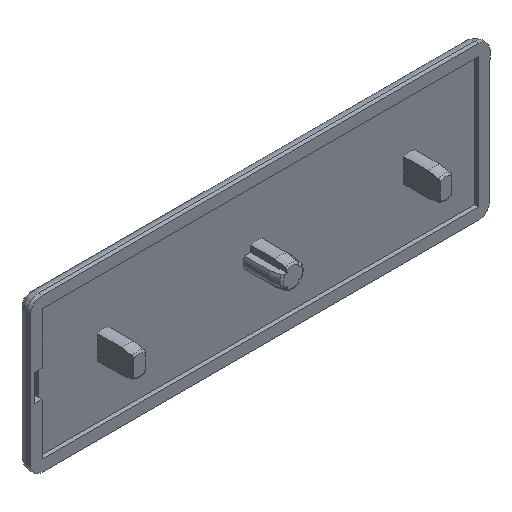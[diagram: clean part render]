
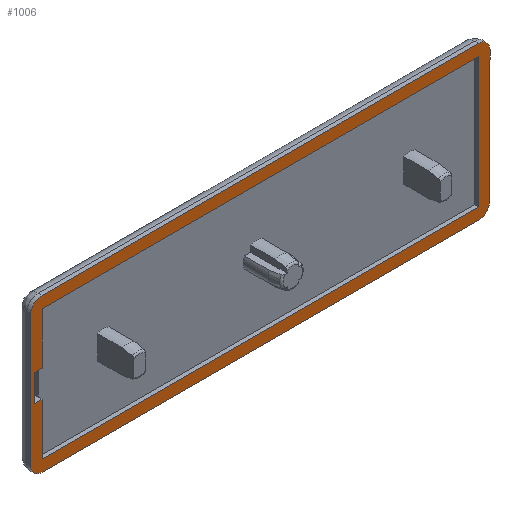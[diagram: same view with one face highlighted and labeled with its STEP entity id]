
A CAD part, isometric view. The second image highlights one B-rep face of the part: STEP entity #1006.
In plain terms, the highlighted planar face has unit normal (0, -1, 0).
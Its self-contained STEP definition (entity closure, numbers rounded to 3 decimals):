
#17 = CARTESIAN_POINT ( 'NONE',  ( 60., -4., 3.5 ) ) ;
#23 = DIRECTION ( 'NONE',  ( -1., 0., 0. ) ) ;
#37 = VERTEX_POINT ( 'NONE', #1158 ) ;
#49 = VECTOR ( 'NONE', #629, 1000. ) ;
#51 = CARTESIAN_POINT ( 'NONE',  ( -59., -4., -20. ) ) ;
#70 = DIRECTION ( 'NONE',  ( 0., 0., -1. ) ) ;
#97 = AXIS2_PLACEMENT_3D ( 'NONE', #972, #940, #951 ) ;
#116 = CARTESIAN_POINT ( 'NONE',  ( -57., -4., 20. ) ) ;
#133 = CARTESIAN_POINT ( 'NONE',  ( -57., -4., -17. ) ) ;
#145 = AXIS2_PLACEMENT_3D ( 'NONE', #133, #346, #319 ) ;
#193 = CARTESIAN_POINT ( 'NONE',  ( -57., -4., -3.5 ) ) ;
#210 = VERTEX_POINT ( 'NONE', #459 ) ;
#276 = ORIENTED_EDGE ( 'NONE', *, *, #1176, .F. ) ;
#303 = EDGE_CURVE ( 'NONE', #1269, #1606, #2118, .T. ) ;
#319 = DIRECTION ( 'NONE',  ( -1., 0., 0. ) ) ;
#346 = DIRECTION ( 'NONE',  ( 0., -1., 0. ) ) ;
#378 = CARTESIAN_POINT ( 'NONE',  ( -60., -4., -17. ) ) ;
#383 = DIRECTION ( 'NONE',  ( 1., 0., 0. ) ) ;
#389 = CARTESIAN_POINT ( 'NONE',  ( -57., -4., -20. ) ) ;
#415 = AXIS2_PLACEMENT_3D ( 'NONE', #1558, #1550, #1534 ) ;
#428 = AXIS2_PLACEMENT_3D ( 'NONE', #2072, #2395, #2059 ) ;
#435 = VECTOR ( 'NONE', #1990, 1000. ) ;
#459 = CARTESIAN_POINT ( 'NONE',  ( 60., -4., -17. ) ) ;
#476 = VERTEX_POINT ( 'NONE', #2409 ) ;
#508 = CARTESIAN_POINT ( 'NONE',  ( -57., -4., 3.5 ) ) ;
#513 = VERTEX_POINT ( 'NONE', #2420 ) ;
#537 = VECTOR ( 'NONE', #2403, 1000. ) ;
#577 = ORIENTED_EDGE ( 'NONE', *, *, #1731, .T. ) ;
#578 = DIRECTION ( 'NONE',  ( -1., 0., 0. ) ) ;
#581 = CIRCLE ( 'NONE', #97, 3. ) ;
#599 = ORIENTED_EDGE ( 'NONE', *, *, #1396, .T. ) ;
#607 = ORIENTED_EDGE ( 'NONE', *, *, #1773, .T. ) ;
#617 = VERTEX_POINT ( 'NONE', #116 ) ;
#629 = DIRECTION ( 'NONE',  ( -1., 0., 0. ) ) ;
#636 = ORIENTED_EDGE ( 'NONE', *, *, #303, .T. ) ;
#652 = CARTESIAN_POINT ( 'NONE',  ( -59., -4., -3.5 ) ) ;
#683 = CARTESIAN_POINT ( 'NONE',  ( -59., -4., 3.5 ) ) ;
#691 = VECTOR ( 'NONE', #70, 1000. ) ;
#712 = ORIENTED_EDGE ( 'NONE', *, *, #1144, .T. ) ;
#801 = CARTESIAN_POINT ( 'NONE',  ( 60., -4., -17. ) ) ;
#820 = VECTOR ( 'NONE', #1016, 1000. ) ;
#850 = ORIENTED_EDGE ( 'NONE', *, *, #2061, .T. ) ;
#862 = LINE ( 'NONE', #801, #49 ) ;
#864 = CARTESIAN_POINT ( 'NONE',  ( 57., -4., 17. ) ) ;
#925 = LINE ( 'NONE', #1924, #1758 ) ;
#936 = LINE ( 'NONE', #995, #820 ) ;
#940 = DIRECTION ( 'NONE',  ( 0., -1., 0. ) ) ;
#951 = DIRECTION ( 'NONE',  ( -1., 0., 0. ) ) ;
#972 = CARTESIAN_POINT ( 'NONE',  ( -57., -4., 17. ) ) ;
#986 = CARTESIAN_POINT ( 'NONE',  ( -60., -4., -20. ) ) ;
#995 = CARTESIAN_POINT ( 'NONE',  ( 57., -4., -20. ) ) ;
#1006 = ADVANCED_FACE ( 'NONE', ( #1337, #1122 ), #2147, .T. ) ;
#1010 = LINE ( 'NONE', #2414, #691 ) ;
#1016 = DIRECTION ( 'NONE',  ( 0., 0., -1. ) ) ;
#1055 = CIRCLE ( 'NONE', #2387, 3. ) ;
#1108 = DIRECTION ( 'NONE',  ( 0., -1., 0. ) ) ;
#1122 = FACE_BOUND ( 'NONE', #1837, .T. ) ;
#1139 = VERTEX_POINT ( 'NONE', #652 ) ;
#1144 = EDGE_CURVE ( 'NONE', #1443, #1139, #1741, .T. ) ;
#1156 = CARTESIAN_POINT ( 'NONE',  ( 57., -4., -20. ) ) ;
#1157 = CARTESIAN_POINT ( 'NONE',  ( -57., -4., -17. ) ) ;
#1158 = CARTESIAN_POINT ( 'NONE',  ( 57., -4., -17. ) ) ;
#1176 = EDGE_CURVE ( 'NONE', #210, #1606, #1370, .T. ) ;
#1215 = LINE ( 'NONE', #2178, #435 ) ;
#1269 = VERTEX_POINT ( 'NONE', #389 ) ;
#1337 = FACE_OUTER_BOUND ( 'NONE', #2033, .T. ) ;
#1343 = VERTEX_POINT ( 'NONE', #1486 ) ;
#1370 = CIRCLE ( 'NONE', #415, 3. ) ;
#1371 = CARTESIAN_POINT ( 'NONE',  ( -60., -4., 20. ) ) ;
#1382 = CIRCLE ( 'NONE', #145, 3. ) ;
#1391 = ORIENTED_EDGE ( 'NONE', *, *, #1742, .T. ) ;
#1396 = EDGE_CURVE ( 'NONE', #1803, #37, #936, .T. ) ;
#1404 = ORIENTED_EDGE ( 'NONE', *, *, #1795, .T. ) ;
#1440 = EDGE_CURVE ( 'NONE', #2292, #617, #2274, .T. ) ;
#1443 = VERTEX_POINT ( 'NONE', #193 ) ;
#1449 = EDGE_CURVE ( 'NONE', #1960, #2180, #1948, .T. ) ;
#1483 = EDGE_CURVE ( 'NONE', #2105, #1269, #1382, .T. ) ;
#1486 = CARTESIAN_POINT ( 'NONE',  ( -57., -4., 17. ) ) ;
#1534 = DIRECTION ( 'NONE',  ( -1., 0., 0. ) ) ;
#1536 = ORIENTED_EDGE ( 'NONE', *, *, #1440, .T. ) ;
#1550 = DIRECTION ( 'NONE',  ( 0., 1., 0. ) ) ;
#1557 = VECTOR ( 'NONE', #1601, 1000. ) ;
#1558 = CARTESIAN_POINT ( 'NONE',  ( 57., -4., -17. ) ) ;
#1595 = CARTESIAN_POINT ( 'NONE',  ( 60., -4., 20. ) ) ;
#1601 = DIRECTION ( 'NONE',  ( 0., 0., 1. ) ) ;
#1606 = VERTEX_POINT ( 'NONE', #1156 ) ;
#1613 = VECTOR ( 'NONE', #1921, 1000. ) ;
#1628 = ORIENTED_EDGE ( 'NONE', *, *, #1675, .T. ) ;
#1673 = LINE ( 'NONE', #51, #1613 ) ;
#1675 = EDGE_CURVE ( 'NONE', #617, #513, #581, .T. ) ;
#1676 = VERTEX_POINT ( 'NONE', #1157 ) ;
#1681 = EDGE_CURVE ( 'NONE', #37, #1676, #862, .T. ) ;
#1699 = VECTOR ( 'NONE', #2441, 1000. ) ;
#1713 = EDGE_CURVE ( 'NONE', #1139, #1960, #1673, .T. ) ;
#1731 = EDGE_CURVE ( 'NONE', #513, #2105, #1010, .T. ) ;
#1741 = LINE ( 'NONE', #1891, #1699 ) ;
#1742 = EDGE_CURVE ( 'NONE', #1343, #1803, #1929, .T. ) ;
#1758 = VECTOR ( 'NONE', #2043, 1000. ) ;
#1773 = EDGE_CURVE ( 'NONE', #210, #476, #2132, .T. ) ;
#1795 = EDGE_CURVE ( 'NONE', #476, #2292, #1055, .T. ) ;
#1797 = DIRECTION ( 'NONE',  ( 1., 0., 0. ) ) ;
#1803 = VERTEX_POINT ( 'NONE', #2319 ) ;
#1834 = EDGE_CURVE ( 'NONE', #1676, #1443, #1215, .T. ) ;
#1837 = EDGE_LOOP ( 'NONE', ( #2433, #2323, #712, #2046, #1939, #850, #1391, #599 ) ) ;
#1891 = CARTESIAN_POINT ( 'NONE',  ( 60., -4., -3.5 ) ) ;
#1921 = DIRECTION ( 'NONE',  ( 0., 0., 1. ) ) ;
#1924 = CARTESIAN_POINT ( 'NONE',  ( -57., -4., -20. ) ) ;
#1929 = LINE ( 'NONE', #2389, #537 ) ;
#1939 = ORIENTED_EDGE ( 'NONE', *, *, #1449, .T. ) ;
#1948 = LINE ( 'NONE', #17, #2434 ) ;
#1960 = VERTEX_POINT ( 'NONE', #683 ) ;
#1990 = DIRECTION ( 'NONE',  ( 0., 0., 1. ) ) ;
#2002 = CARTESIAN_POINT ( 'NONE',  ( 57., -4., 20. ) ) ;
#2019 = VECTOR ( 'NONE', #23, 1000. ) ;
#2033 = EDGE_LOOP ( 'NONE', ( #607, #1404, #1536, #1628, #577, #2213, #636, #276 ) ) ;
#2043 = DIRECTION ( 'NONE',  ( 0., 0., 1. ) ) ;
#2046 = ORIENTED_EDGE ( 'NONE', *, *, #1713, .T. ) ;
#2059 = DIRECTION ( 'NONE',  ( 1., 0., 0. ) ) ;
#2061 = EDGE_CURVE ( 'NONE', #2180, #1343, #925, .T. ) ;
#2072 = CARTESIAN_POINT ( 'NONE',  ( 60., -4., -20. ) ) ;
#2105 = VERTEX_POINT ( 'NONE', #378 ) ;
#2118 = LINE ( 'NONE', #986, #2352 ) ;
#2132 = LINE ( 'NONE', #1595, #1557 ) ;
#2147 = PLANE ( 'NONE',  #428 ) ;
#2178 = CARTESIAN_POINT ( 'NONE',  ( -57., -4., -20. ) ) ;
#2180 = VERTEX_POINT ( 'NONE', #508 ) ;
#2213 = ORIENTED_EDGE ( 'NONE', *, *, #1483, .T. ) ;
#2274 = LINE ( 'NONE', #1371, #2019 ) ;
#2292 = VERTEX_POINT ( 'NONE', #2002 ) ;
#2319 = CARTESIAN_POINT ( 'NONE',  ( 57., -4., 17. ) ) ;
#2323 = ORIENTED_EDGE ( 'NONE', *, *, #1834, .T. ) ;
#2352 = VECTOR ( 'NONE', #1797, 1000. ) ;
#2387 = AXIS2_PLACEMENT_3D ( 'NONE', #864, #1108, #578 ) ;
#2389 = CARTESIAN_POINT ( 'NONE',  ( 60., -4., 17. ) ) ;
#2395 = DIRECTION ( 'NONE',  ( 0., -1., 0. ) ) ;
#2403 = DIRECTION ( 'NONE',  ( 1., 0., 0. ) ) ;
#2409 = CARTESIAN_POINT ( 'NONE',  ( 60., -4., 17. ) ) ;
#2414 = CARTESIAN_POINT ( 'NONE',  ( -60., -4., 20. ) ) ;
#2420 = CARTESIAN_POINT ( 'NONE',  ( -60., -4., 17. ) ) ;
#2433 = ORIENTED_EDGE ( 'NONE', *, *, #1681, .T. ) ;
#2434 = VECTOR ( 'NONE', #383, 1000. ) ;
#2441 = DIRECTION ( 'NONE',  ( -1., 0., 0. ) ) ;
